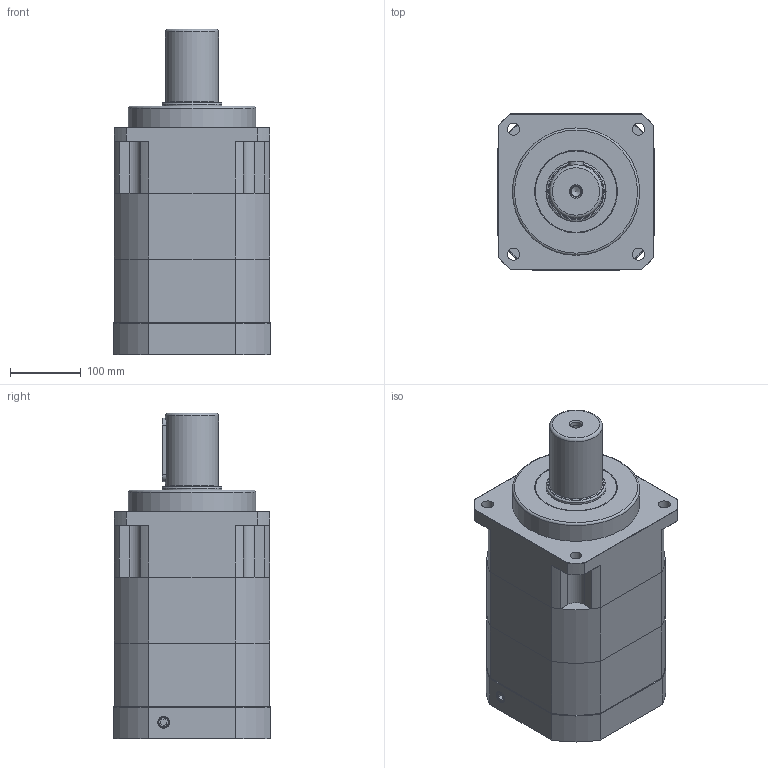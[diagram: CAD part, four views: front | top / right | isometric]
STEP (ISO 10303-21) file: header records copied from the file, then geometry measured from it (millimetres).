
FILE_DESCRIPTION((''),'2;1');
FILE_NAME('C:\Work\감속기 카다로그 도면\ATG Reducer(홈페이지)\KSB\KSB-220A-2.stp','2014-07-22T15:17:45',('young'),(''),'Autodesk Inventor 2012','Autodesk Inventor 2012','');
FILE_SCHEMA(('AUTOMOTIVE_DESIGN { 1 0 10303 214 1 1 1 1 }'));
Length unit declared in the file: millimetre
Products named in the file (1): KSB-220A-2
Bounding box: 222 x 222 x 460.5 mm (x, y, z)
Volume: 12648505.6 mm3; surface area: 924350.5 mm2
Topology: 17 solids, 17 shells, 473 faces, 1111 edges, 711 vertices
Faces by surface type: plane 262, cylinder 124, cone 66, torus 12, bspline 9
Full cylindrical faces by diameter (mm): 8.6 x1, 10 x1, 10.2 x12, 11 x1, 12 x4, 13 x12, 14 x1, 14.275 x2, 14.5 x2, 16 x2, 17 x4, 18 x4, 19 x8, 48 x1, 60 x1, 66 x1, 72.2 x1, 74.8 x1, 75 x2, 84.8 x1, 85 x1, 90 x2, 95 x1, 114.3 x1, 115 x2, 155 x1, 180 x1, 200 x2
Entity records: 13617 total; most frequent: CARTESIAN_POINT 3096, DIRECTION 2178, ORIENTED_EDGE 1924, EDGE_CURVE 962, AXIS2_PLACEMENT_3D 821, VERTEX_POINT 686, EDGE_LOOP 686, VECTOR 536
